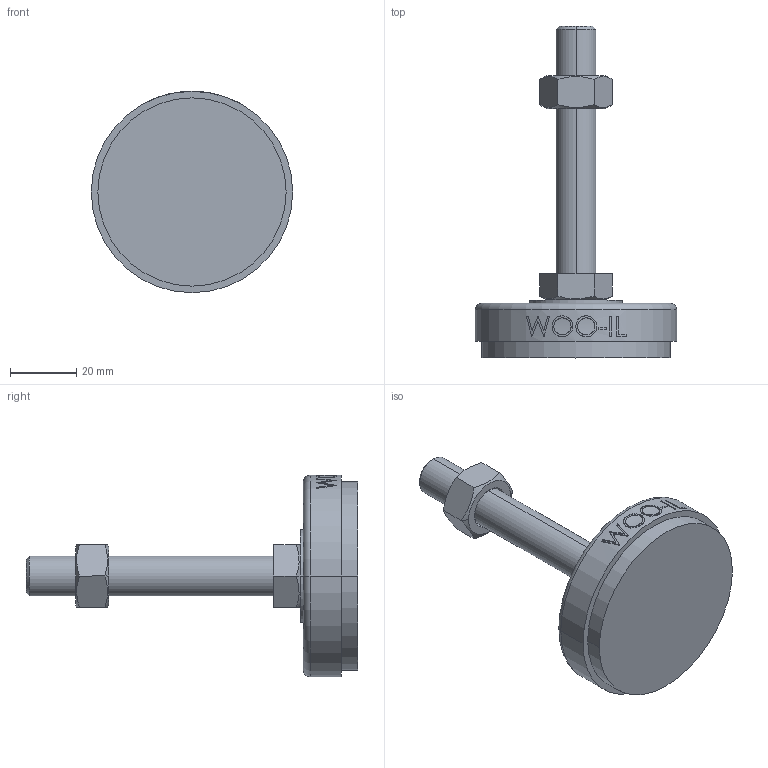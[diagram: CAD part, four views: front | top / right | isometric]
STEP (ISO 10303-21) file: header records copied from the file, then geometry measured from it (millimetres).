
FILE_DESCRIPTION (( 'STEP AP214' ), '1' );
FILE_NAME ('NS61-M12-75.step', '2021-01-11T05:45:25', ( '' ), ( '' ), 'SwSTEP 2.0', 'SolidWorks 2019', '' );
FILE_SCHEMA (( 'AUTOMOTIVE_DESIGN' ));
Length unit declared in the file: millimetre
Products named in the file (2): NS61-M12-75
Bounding box: 61 x 100.5 x 61 mm (x, y, z)
Volume: 59700.4 mm3; surface area: 14174.5 mm2
Topology: 3 solids, 3 shells, 96 faces, 223 edges, 144 vertices
Faces by surface type: plane 48, cylinder 18, bspline 16, cone 12, torus 2
Entity records: 4252 total; most frequent: CARTESIAN_POINT 2127, ORIENTED_EDGE 446, DIRECTION 381, EDGE_CURVE 223, VERTEX_POINT 144, AXIS2_PLACEMENT_3D 142, EDGE_LOOP 109, LINE 97
